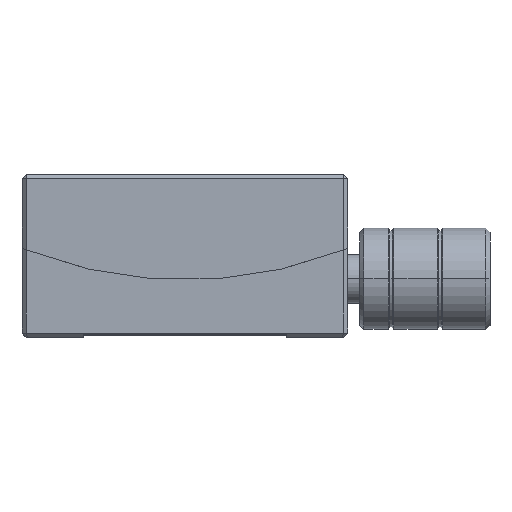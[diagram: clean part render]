
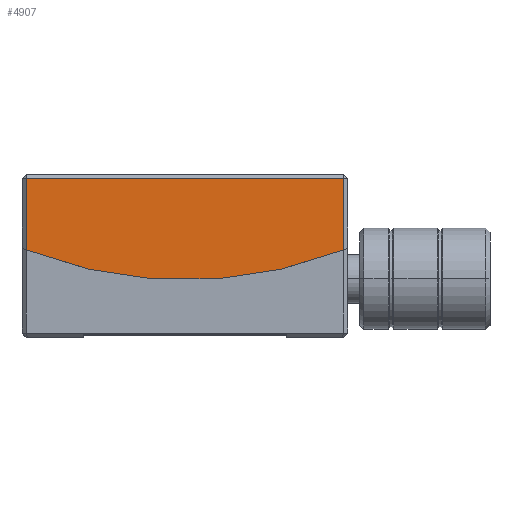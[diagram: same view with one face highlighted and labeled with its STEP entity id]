
A CAD part, top view. The second image highlights one B-rep face of the part: STEP entity #4907.
In plain terms, the highlighted planar face has unit normal (0, 0, 1).
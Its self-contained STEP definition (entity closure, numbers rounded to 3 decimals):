
#645 = CARTESIAN_POINT ( 'NONE',  ( -19.5, 9.5, 20. ) ) ;
#908 = AXIS2_PLACEMENT_3D ( 'NONE', #4778, #2795, #4869 ) ;
#979 = EDGE_CURVE ( 'NONE', #2188, #2711, #3675, .T. ) ;
#1170 = VERTEX_POINT ( 'NONE', #5778 ) ;
#1657 = EDGE_CURVE ( 'NONE', #7073, #2188, #8013, .T. ) ;
#1878 = DIRECTION ( 'NONE',  ( 0., -1., 0. ) ) ;
#1964 = DIRECTION ( 'NONE',  ( 0., -1., 0. ) ) ;
#1984 = ORIENTED_EDGE ( 'NONE', *, *, #3760, .T. ) ;
#2188 = VERTEX_POINT ( 'NONE', #7034 ) ;
#2377 = CARTESIAN_POINT ( 'NONE',  ( 19.5, 8., 20. ) ) ;
#2458 = CARTESIAN_POINT ( 'NONE',  ( -19.5, 8., 20. ) ) ;
#2694 = VECTOR ( 'NONE', #4401, 1000. ) ;
#2711 = VERTEX_POINT ( 'NONE', #2941 ) ;
#2795 = DIRECTION ( 'NONE',  ( 0., 0., 1. ) ) ;
#2941 = CARTESIAN_POINT ( 'NONE',  ( 19.5, 0.718, 20. ) ) ;
#3675 = CIRCLE ( 'NONE', #908, 53. ) ;
#3760 = EDGE_CURVE ( 'NONE', #2711, #1170, #7248, .T. ) ;
#3768 = EDGE_LOOP ( 'NONE', ( #6356, #6312, #4176, #1984 ) ) ;
#4062 = CARTESIAN_POINT ( 'NONE',  ( -20., 8., 20. ) ) ;
#4176 = ORIENTED_EDGE ( 'NONE', *, *, #979, .T. ) ;
#4263 = CARTESIAN_POINT ( 'NONE',  ( -20., 9.5, 20. ) ) ;
#4401 = DIRECTION ( 'NONE',  ( -1., 0., 0. ) ) ;
#4616 = EDGE_CURVE ( 'NONE', #1170, #7073, #7116, .T. ) ;
#4778 = CARTESIAN_POINT ( 'NONE',  ( 0., 50., 20. ) ) ;
#4869 = DIRECTION ( 'NONE',  ( -1., 0., 0. ) ) ;
#4907 = ADVANCED_FACE ( 'NONE', ( #6917 ), #8237, .F. ) ;
#5778 = CARTESIAN_POINT ( 'NONE',  ( 19.5, 9.5, 20. ) ) ;
#6016 = VECTOR ( 'NONE', #1878, 1000. ) ;
#6312 = ORIENTED_EDGE ( 'NONE', *, *, #1657, .T. ) ;
#6356 = ORIENTED_EDGE ( 'NONE', *, *, #4616, .T. ) ;
#6840 = VECTOR ( 'NONE', #7981, 1000. ) ;
#6917 = FACE_OUTER_BOUND ( 'NONE', #3768, .T. ) ;
#6963 = DIRECTION ( 'NONE',  ( 0., 0., -1. ) ) ;
#7034 = CARTESIAN_POINT ( 'NONE',  ( -19.5, 0.718, 20. ) ) ;
#7073 = VERTEX_POINT ( 'NONE', #645 ) ;
#7116 = LINE ( 'NONE', #4263, #2694 ) ;
#7248 = LINE ( 'NONE', #2377, #6840 ) ;
#7981 = DIRECTION ( 'NONE',  ( 0., 1., 0. ) ) ;
#8013 = LINE ( 'NONE', #2458, #6016 ) ;
#8237 = PLANE ( 'NONE',  #8562 ) ;
#8562 = AXIS2_PLACEMENT_3D ( 'NONE', #4062, #6963, #1964 ) ;
